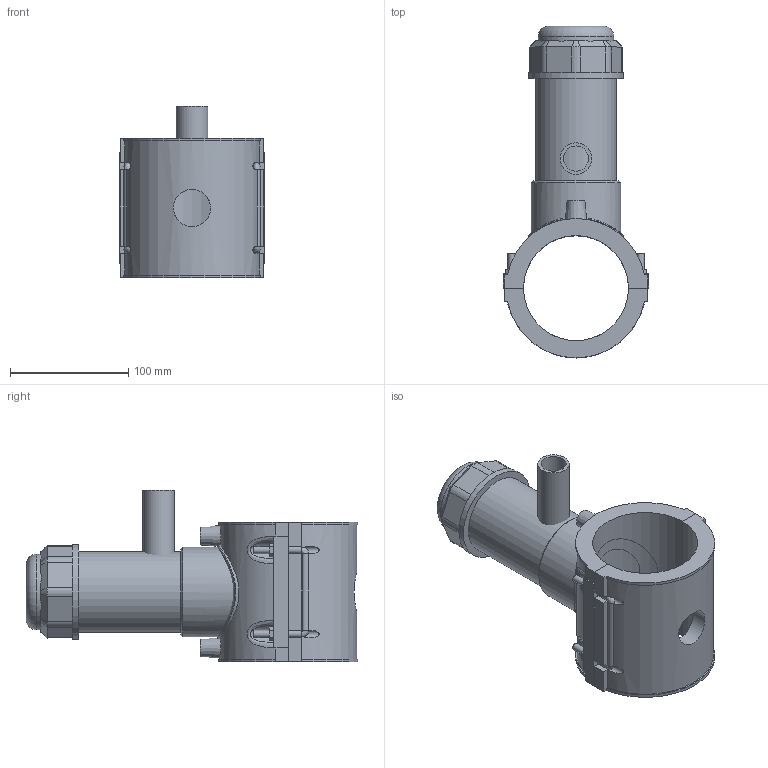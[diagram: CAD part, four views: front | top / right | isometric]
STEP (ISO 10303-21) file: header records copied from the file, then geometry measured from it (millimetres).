
FILE_DESCRIPTION(/* description */ ('PLASSON TAPPING SADDLE 3''''IPS x 3/4''''IPS'),/* implementation_level */ '2;1');
FILE_NAME(/* name */ 'C:\Dropbox\KIMPROJECTS-Inventor 2019\99-16-3568-Processing Inch\ASTM ElectroFusion 2021\5963BBP_5963BUP\5963BBP3030007.ipt.stp',/* time_stamp */ '2021-08-30T09:56:51+03:00',/* author */ ('KIM'),/* organization */ (''),/* preprocessor_version */ 'ST-DEVELOPER v17.2',/* originating_system */ 'Autodesk Inventor 2019',/* authorisation */ '');
FILE_SCHEMA (('AUTOMOTIVE_DESIGN { 1 0 10303 214 3 1 1 }'));
Length unit declared in the file: inch
Products named in the file (1): 5963BBP3030007
Bounding box: 122.9 x 280.2 x 145.16 mm (x, y, z)
Volume: 935774.2 mm3; surface area: 191997.5 mm2
Topology: 3 solids, 3 shells, 204 faces, 543 edges, 356 vertices
Faces by surface type: plane 125, cylinder 53, cone 15, bspline 10, torus 1
Full cylindrical faces by diameter (mm): 4 x2, 6 x8, 10 x2, 21.28 x1, 26.6 x1, 31.36 x1, 55.881 x1, 63.864 x1, 67.856 x1, 75.839 x1, 79.83 x1
Entity records: 7875 total; most frequent: CARTESIAN_POINT 2739, ORIENTED_EDGE 1086, DIRECTION 1022, EDGE_CURVE 543, VERTEX_POINT 356, AXIS2_PLACEMENT_3D 351, LINE 320, VECTOR 320
